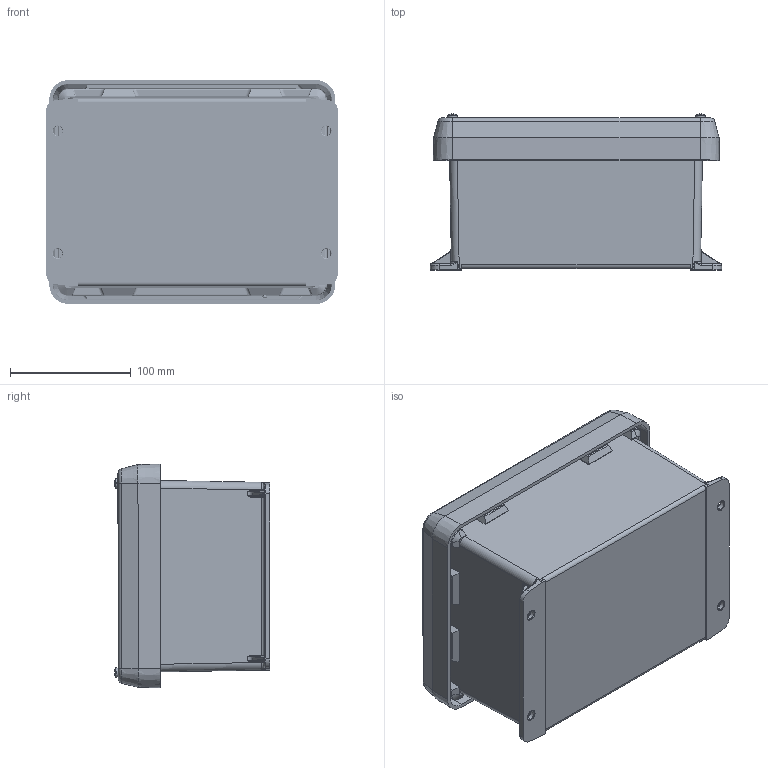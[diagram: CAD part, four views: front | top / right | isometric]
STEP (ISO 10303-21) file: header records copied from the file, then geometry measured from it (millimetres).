
FILE_DESCRIPTION (( 'STEP AP203' ), '1' );
FILE_NAME ('VJ806W.STEP', '2018-04-24T13:53:33', ( '' ), ( '' ), 'SwSTEP 2.0', 'SolidWorks 2017', '' );
FILE_SCHEMA (( 'CONFIG_CONTROL_DESIGN' ));
Length unit declared in the file: inch
Products named in the file (12): 90283A844_90283A844; MP-806A; VJPH-1; VFP806A; VJFPKdrive; VJ-806 BASE; VJFPC-1drive; VJ-806 COVER; VJFPC-2drive; 91794A832_18-8 SS FILLISTER HEAD SLOTTED MACHINE SCREW_91794A832; VJ806W; 97191A210_INSERTS FOR DRILLED HOLES IN SOFT MTLS_97191A210
Assembly tree (19 placements, depth 2):
  VJ806W
    VJ-806 BASE
    VJ-806 COVER
    91794A832_18-8 SS FILLISTER HEAD SLOTTED MACHINE SCREW_91794A832  x4
    97191A210_INSERTS FOR DRILLED HOLES IN SOFT MTLS_97191A210  x4
    90283A844_90283A844
    MP-806A
    VJPH-1  x2
    VFP806A
    VJFPKdrive
    VJFPC-1drive
    VJFPC-2drive  x2
Bounding box: 241.3 x 129.12 x 185.37 mm (x, y, z)
Volume: 829163.3 mm3; surface area: 528307.2 mm2
Topology: 27 solids, 27 shells, 1952 faces, 5232 edges, 3360 vertices
Faces by surface type: cylinder 960, plane 548, bspline 285, cone 77, torus 61, sphere 21
Entity records: 56418 total; most frequent: CARTESIAN_POINT 25911, ORIENTED_EDGE 6668, DIRECTION 5517, EDGE_CURVE 3334, VERTEX_POINT 2103, AXIS2_PLACEMENT_3D 2000, LINE 1517, VECTOR 1517
